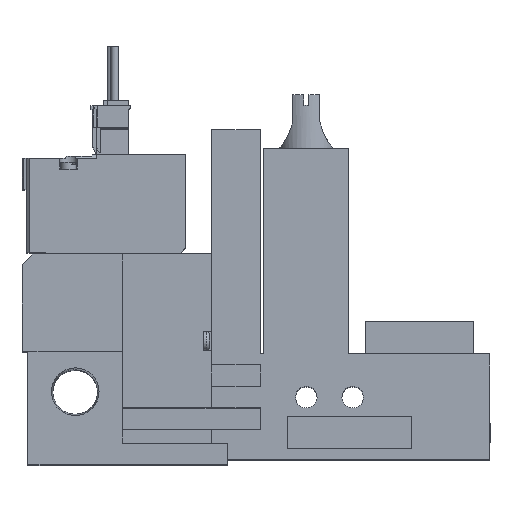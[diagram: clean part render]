
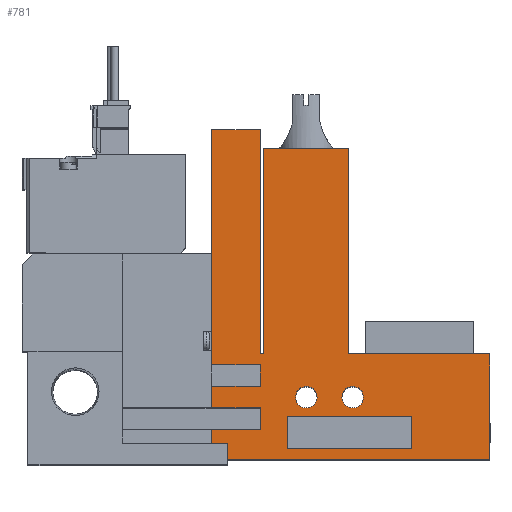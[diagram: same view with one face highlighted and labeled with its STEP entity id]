
A CAD part, top view. The second image highlights one B-rep face of the part: STEP entity #781.
In plain terms, the highlighted planar face has unit normal (0, 0, 1).
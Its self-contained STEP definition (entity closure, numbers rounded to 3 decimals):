
#781=ADVANCED_FACE('',(#1565,#1566,#1567,#1568),#1569,.T.);
#1565=FACE_OUTER_BOUND('',#2568,.T.);
#1566=FACE_BOUND('',#2569,.T.);
#1567=FACE_BOUND('',#2570,.T.);
#1568=FACE_BOUND('',#2571,.T.);
#1569=PLANE('',#2572);
#2568=EDGE_LOOP('',(#5480,#5481,#5482,#5483,#5484,#5485,#5486,#5487,#5488,#5489,#5490,#5491,#5492,#5493,#5494,#5495,#5496,#5497));
#2569=EDGE_LOOP('',(#5498,#5499,#5500,#5501));
#2570=EDGE_LOOP('',(#5502));
#2571=EDGE_LOOP('',(#5503));
#2572=AXIS2_PLACEMENT_3D('',#5504,#5505,#5506);
#5480=ORIENTED_EDGE('',*,*,#7028,.T.);
#5481=ORIENTED_EDGE('',*,*,#7035,.T.);
#5482=ORIENTED_EDGE('',*,*,#7159,.T.);
#5483=ORIENTED_EDGE('',*,*,#7192,.T.);
#5484=ORIENTED_EDGE('',*,*,#7056,.T.);
#5485=ORIENTED_EDGE('',*,*,#7088,.T.);
#5486=ORIENTED_EDGE('',*,*,#7146,.T.);
#5487=ORIENTED_EDGE('',*,*,#7078,.T.);
#5488=ORIENTED_EDGE('',*,*,#7085,.T.);
#5489=ORIENTED_EDGE('',*,*,#7191,.T.);
#5490=ORIENTED_EDGE('',*,*,#6994,.T.);
#5491=ORIENTED_EDGE('',*,*,#7172,.T.);
#5492=ORIENTED_EDGE('',*,*,#7193,.T.);
#5493=ORIENTED_EDGE('',*,*,#7180,.T.);
#5494=ORIENTED_EDGE('',*,*,#7156,.T.);
#5495=ORIENTED_EDGE('',*,*,#7177,.T.);
#5496=ORIENTED_EDGE('',*,*,#7095,.T.);
#5497=ORIENTED_EDGE('',*,*,#7179,.T.);
#5498=ORIENTED_EDGE('',*,*,#7053,.T.);
#5499=ORIENTED_EDGE('',*,*,#7194,.T.);
#5500=ORIENTED_EDGE('',*,*,#7153,.T.);
#5501=ORIENTED_EDGE('',*,*,#7138,.T.);
#5502=ORIENTED_EDGE('',*,*,#7154,.T.);
#5503=ORIENTED_EDGE('',*,*,#7195,.T.);
#5504=CARTESIAN_POINT('',(0.0,0.0,10.0));
#5505=DIRECTION('',(0.0,0.0,1.0));
#5506=DIRECTION('',(1.0,0.0,0.0));
#6994=EDGE_CURVE('',#8503,#8501,#8504,.T.);
#7028=EDGE_CURVE('',#8569,#8567,#8570,.T.);
#7035=EDGE_CURVE('',#8567,#8579,#8581,.T.);
#7053=EDGE_CURVE('',#8610,#8612,#8614,.T.);
#7056=EDGE_CURVE('',#8619,#8617,#8620,.T.);
#7078=EDGE_CURVE('',#8659,#8657,#8660,.T.);
#7085=EDGE_CURVE('',#8657,#8670,#8672,.T.);
#7088=EDGE_CURVE('',#8617,#8676,#8677,.T.);
#7095=EDGE_CURVE('',#8690,#8688,#8691,.T.);
#7138=EDGE_CURVE('',#8758,#8610,#8760,.T.);
#7146=EDGE_CURVE('',#8676,#8659,#8770,.T.);
#7153=EDGE_CURVE('',#8778,#8758,#8780,.T.);
#7154=EDGE_CURVE('',#8781,#8781,#8782,.T.);
#7156=EDGE_CURVE('',#8785,#8783,#8786,.T.);
#7159=EDGE_CURVE('',#8579,#8788,#8790,.T.);
#7172=EDGE_CURVE('',#8501,#8806,#8808,.T.);
#7177=EDGE_CURVE('',#8783,#8690,#8813,.T.);
#7179=EDGE_CURVE('',#8688,#8569,#8816,.T.);
#7180=EDGE_CURVE('',#8817,#8785,#8818,.T.);
#7191=EDGE_CURVE('',#8670,#8503,#8833,.T.);
#7192=EDGE_CURVE('',#8788,#8619,#8834,.T.);
#7193=EDGE_CURVE('',#8806,#8817,#8835,.T.);
#7194=EDGE_CURVE('',#8612,#8778,#8836,.T.);
#7195=EDGE_CURVE('',#8837,#8837,#8838,.T.);
#8501=VERTEX_POINT('',#10943);
#8503=VERTEX_POINT('',#10946);
#8504=LINE('',#10947,#10948);
#8567=VERTEX_POINT('',#11042);
#8569=VERTEX_POINT('',#11045);
#8570=LINE('',#11046,#11047);
#8579=VERTEX_POINT('',#11061);
#8581=LINE('',#11064,#11065);
#8610=VERTEX_POINT('',#11108);
#8612=VERTEX_POINT('',#11111);
#8614=LINE('',#11114,#11115);
#8617=VERTEX_POINT('',#11119);
#8619=VERTEX_POINT('',#11122);
#8620=LINE('',#11123,#11124);
#8657=VERTEX_POINT('',#11178);
#8659=VERTEX_POINT('',#11181);
#8660=LINE('',#11182,#11183);
#8670=VERTEX_POINT('',#11197);
#8672=LINE('',#11200,#11201);
#8676=VERTEX_POINT('',#11207);
#8677=LINE('',#11208,#11209);
#8688=VERTEX_POINT('',#11225);
#8690=VERTEX_POINT('',#11228);
#8691=LINE('',#11229,#11230);
#8758=VERTEX_POINT('',#11333);
#8760=LINE('',#11336,#11337);
#8770=LINE('',#11352,#11353);
#8778=VERTEX_POINT('',#11365);
#8780=LINE('',#11368,#11369);
#8781=VERTEX_POINT('',#11370);
#8782=CIRCLE('',#11371,2.0);
#8783=VERTEX_POINT('',#11372);
#8785=VERTEX_POINT('',#11375);
#8786=LINE('',#11376,#11377);
#8788=VERTEX_POINT('',#11380);
#8790=LINE('',#11383,#11384);
#8806=VERTEX_POINT('',#11429);
#8808=LINE('',#11432,#11433);
#8813=LINE('',#11442,#11443);
#8816=LINE('',#11446,#11447);
#8817=VERTEX_POINT('',#11448);
#8818=LINE('',#11449,#11450);
#8833=LINE('',#11473,#11474);
#8834=LINE('',#11475,#11476);
#8835=LINE('',#11477,#11478);
#8836=LINE('',#11479,#11480);
#8837=VERTEX_POINT('',#11481);
#8838=CIRCLE('',#11482,2.0);
#10943=CARTESIAN_POINT('',(86.6,19.5,10.0));
#10946=CARTESIAN_POINT('',(86.6,0.0,10.0));
#10947=CARTESIAN_POINT('',(86.6,0.0,10.0));
#10948=VECTOR('',#12945,1.0);
#11042=CARTESIAN_POINT('',(35.1,17.5,10.0));
#11045=CARTESIAN_POINT('',(35.1,61.0,10.0));
#11046=CARTESIAN_POINT('',(35.1,61.0,10.0));
#11047=VECTOR('',#12981,1.0);
#11061=CARTESIAN_POINT('',(44.1,17.5,10.0));
#11064=CARTESIAN_POINT('',(0.0,17.5,10.0));
#11065=VECTOR('',#12988,1.0);
#11108=CARTESIAN_POINT('',(49.1,2.0,10.0));
#11111=CARTESIAN_POINT('',(49.1,8.0,10.0));
#11114=CARTESIAN_POINT('',(49.1,0.0,10.0));
#11115=VECTOR('',#13008,1.0);
#11119=CARTESIAN_POINT('',(35.1,9.5,10.0));
#11122=CARTESIAN_POINT('',(35.1,13.5,10.0));
#11123=CARTESIAN_POINT('',(35.1,0.0,10.0));
#11124=VECTOR('',#13011,1.0);
#11178=CARTESIAN_POINT('',(35.1,5.5,10.0));
#11181=CARTESIAN_POINT('',(44.1,5.5,10.0));
#11182=CARTESIAN_POINT('',(0.0,5.5,10.0));
#11183=VECTOR('',#13039,1.0);
#11197=CARTESIAN_POINT('',(35.1,0.0,10.0));
#11200=CARTESIAN_POINT('',(35.1,0.0,10.0));
#11201=VECTOR('',#13048,1.0);
#11207=CARTESIAN_POINT('',(44.1,9.5,10.0));
#11208=CARTESIAN_POINT('',(0.0,9.5,10.0));
#11209=VECTOR('',#13051,1.0);
#11225=CARTESIAN_POINT('',(44.1,61.0,10.0));
#11228=CARTESIAN_POINT('',(44.1,19.5,10.0));
#11229=CARTESIAN_POINT('',(44.1,19.5,10.0));
#11230=VECTOR('',#13058,1.0);
#11333=CARTESIAN_POINT('',(72.1,2.0,10.0));
#11336=CARTESIAN_POINT('',(0.0,2.0,10.0));
#11337=VECTOR('',#13111,1.0);
#11352=CARTESIAN_POINT('',(44.1,0.0,10.0));
#11353=VECTOR('',#13123,1.0);
#11365=CARTESIAN_POINT('',(72.1,8.0,10.0));
#11368=CARTESIAN_POINT('',(72.1,0.0,10.0));
#11369=VECTOR('',#13132,1.0);
#11370=CARTESIAN_POINT('',(54.6,11.5,10.0));
#11371=AXIS2_PLACEMENT_3D('',#13133,#13134,#13135);
#11372=CARTESIAN_POINT('',(44.75,19.5,10.0));
#11375=CARTESIAN_POINT('',(44.75,57.5,10.0));
#11376=CARTESIAN_POINT('',(44.75,57.5,10.0));
#11377=VECTOR('',#13137,1.0);
#11380=CARTESIAN_POINT('',(44.1,13.5,10.0));
#11383=CARTESIAN_POINT('',(44.1,0.0,10.0));
#11384=VECTOR('',#13140,1.0);
#11429=CARTESIAN_POINT('',(60.45,19.5,10.0));
#11432=CARTESIAN_POINT('',(86.6,19.5,10.0));
#11433=VECTOR('',#13157,1.0);
#11442=CARTESIAN_POINT('',(44.75,19.5,10.0));
#11443=VECTOR('',#13162,1.0);
#11446=CARTESIAN_POINT('',(44.1,61.0,10.0));
#11447=VECTOR('',#13166,1.0);
#11448=CARTESIAN_POINT('',(60.45,57.5,10.0));
#11449=CARTESIAN_POINT('',(60.45,57.5,10.0));
#11450=VECTOR('',#13167,1.0);
#11473=CARTESIAN_POINT('',(18.6,0.0,10.0));
#11474=VECTOR('',#13182,1.0);
#11475=CARTESIAN_POINT('',(0.0,13.5,10.0));
#11476=VECTOR('',#13183,1.0);
#11477=CARTESIAN_POINT('',(60.45,19.5,10.0));
#11478=VECTOR('',#13184,1.0);
#11479=CARTESIAN_POINT('',(0.0,8.0,10.0));
#11480=VECTOR('',#13185,1.0);
#11481=CARTESIAN_POINT('',(63.2,11.5,10.0));
#11482=AXIS2_PLACEMENT_3D('',#13186,#13187,#13188);
#12945=DIRECTION('',(0.0,1.0,0.0));
#12981=DIRECTION('',(0.0,-1.0,0.0));
#12988=DIRECTION('',(1.0,0.0,0.0));
#13008=DIRECTION('',(0.0,1.0,0.0));
#13011=DIRECTION('',(0.0,-1.0,0.0));
#13039=DIRECTION('',(-1.0,0.0,0.0));
#13048=DIRECTION('',(0.0,-1.0,0.0));
#13051=DIRECTION('',(1.0,0.0,0.0));
#13058=DIRECTION('',(0.0,1.0,0.0));
#13111=DIRECTION('',(-1.0,0.0,0.0));
#13123=DIRECTION('',(0.0,-1.0,0.0));
#13132=DIRECTION('',(0.0,-1.0,0.0));
#13133=CARTESIAN_POINT('',(52.6,11.5,10.0));
#13134=DIRECTION('',(0.0,0.0,-1.0));
#13135=DIRECTION('',(1.0,0.0,0.0));
#13137=DIRECTION('',(0.0,-1.0,0.0));
#13140=DIRECTION('',(0.0,-1.0,0.0));
#13157=DIRECTION('',(-1.0,0.0,0.0));
#13162=DIRECTION('',(-1.0,0.0,0.0));
#13166=DIRECTION('',(-1.0,0.0,0.0));
#13167=DIRECTION('',(-1.0,0.0,0.0));
#13182=DIRECTION('',(1.0,0.0,0.0));
#13183=DIRECTION('',(-1.0,0.0,0.0));
#13184=DIRECTION('',(0.0,1.0,0.0));
#13185=DIRECTION('',(1.0,0.0,0.0));
#13186=CARTESIAN_POINT('',(61.2,11.5,10.0));
#13187=DIRECTION('',(0.0,0.0,-1.0));
#13188=DIRECTION('',(1.0,0.0,0.0));
